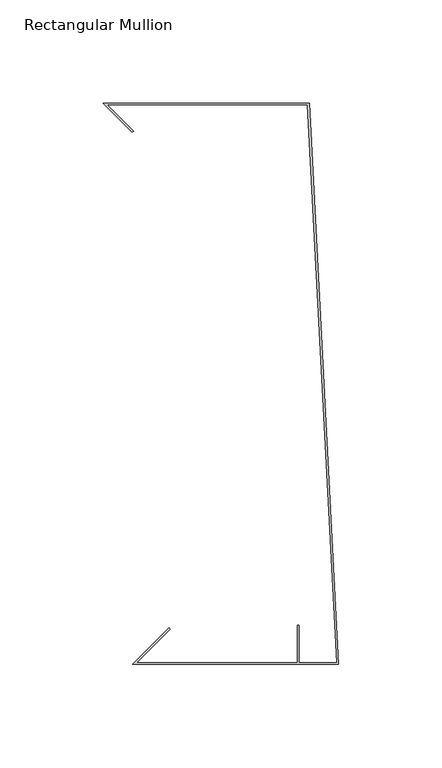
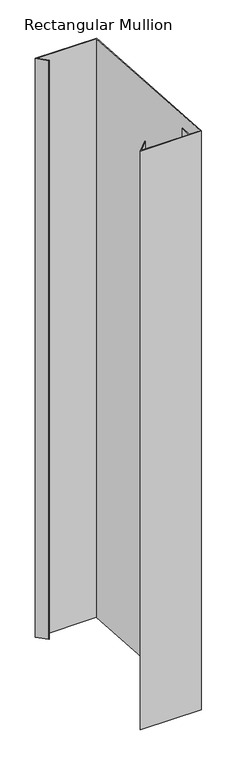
"""IFC4 building model written with IfcOpenShell, lengths in millimetres: member geometry, Rectangular Mullion : TE-V-03_01_Top parapet."""

from ifc_helpers import new_model, si_unit, frame, origin, place, context, project, spatial, polyline, outline, extrude, source, transform, mapped, element, save


def rectangular_mullion_513d8d5d(model_context):
    return source(origin(), model_context, "Body", "SweptSolid", [
        extrude(outline(polyline([(-100.0, -19.0), (-82.3223305, -1.3223305), (-81.756645, -1.8880159), (-98.0686292, -18.2), (-20.0, -18.2), (-20.0, 0.0), (-19.2, 0.0), (-19.2, -18.2), (-0.8430241, -18.2), (-15.0140876, 252.2), (-112.3235451, 252.2), (-99.5470949, 239.4235498), (-100.1127803, 238.8578644), (-114.254916, 253.0), (-14.254916, 253.0), (0.0, -19.0), (-100.0, -19.0)])), frame((0.0, 0.0, -999.9999997), z_axis=(0.0, 0.0, 1.0), x_axis=(1.0, 0.0, 0.0)), (0.0, 0.0, 1.0), 999.9999997),
    ])


if __name__ == "__main__":
    model = new_model("IFC4")
    model_context = context("Model", 3, world=origin())
    ifc_project = project(units=[si_unit("LENGTHUNIT", "METRE", prefix="MILLI")], contexts=[model_context])
    site = spatial("IfcSite", under=ifc_project)
    building = spatial("IfcBuilding", under=site)
    placement = place(None, origin())
    rectangular_mullion_shape = rectangular_mullion_513d8d5d(model_context)
    element("IfcMember", 1, ObjectType="Rectangular Mullion : TE-V-03_01_Top parapet", at=placement, inside=building, context=model_context, shape_type="MappedRepresentation", body=[
        mapped(rectangular_mullion_shape, transform((0.0, 0.0, 0.0), x_axis=(1.0, 0.0, 0.0), y_axis=(0.0, 1.0, 0.0), z_axis=(0.0, 0.0, 1.0))),
    ])
    save(model, "model.ifc")
